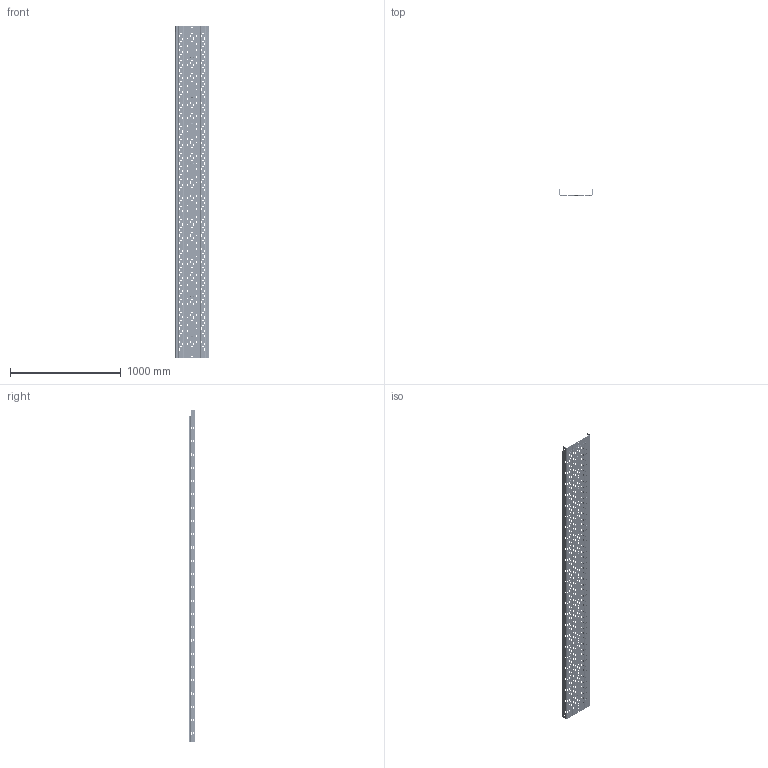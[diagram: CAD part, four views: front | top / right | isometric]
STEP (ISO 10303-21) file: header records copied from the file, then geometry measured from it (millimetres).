
FILE_DESCRIPTION (( 'STEP AP203' ), '1' );
FILE_NAME ('ERE 300x60 300x60.step', '2023-07-27T15:02:14', ( '' ), ( '' ), 'SwSTEP 2.0', 'SolidWorks 2022', '' );
FILE_SCHEMA (( 'CONFIG_CONTROL_DESIGN' ));
Products named in the file (1): ERE 300x60 300x60
Bounding box: 300 x 60.8 x 3000 mm (x, y, z)
Surface area: 2444347 mm2 (no closed solid volume)
Topology: 0 solids, 1 shells, 12792 faces, 37790 edges, 25005 vertices
Faces by surface type: plane 11012, cylinder 1676, torus 64, cone 36, bspline 4
Entity records: 423393 total; most frequent: CARTESIAN_POINT 75961, ORIENTED_EDGE 75580, DIRECTION 66726, EDGE_CURVE 37790, VECTOR 34268, LINE 34268, VERTEX_POINT 25080, AXIS2_PLACEMENT_3D 16229
